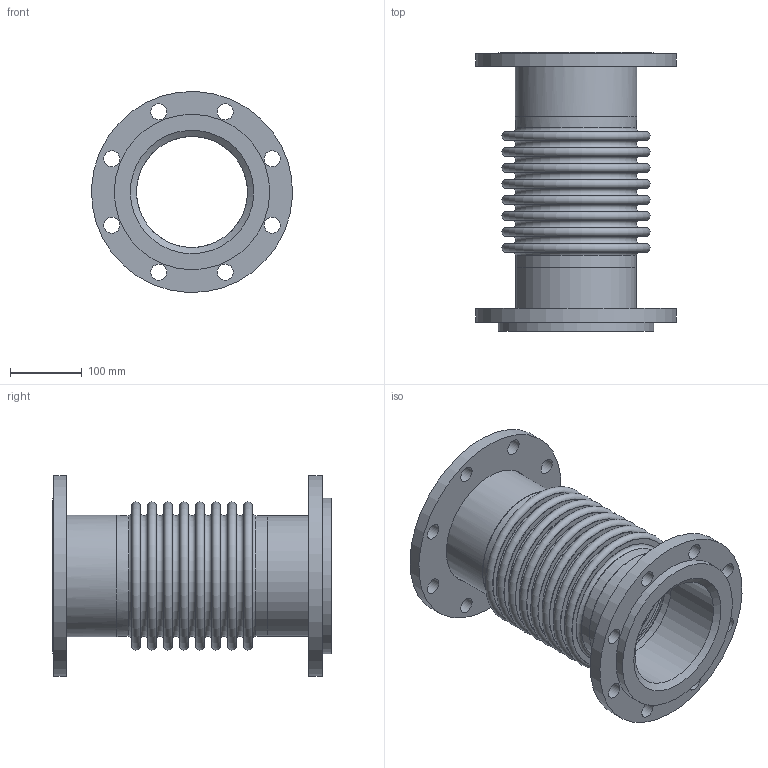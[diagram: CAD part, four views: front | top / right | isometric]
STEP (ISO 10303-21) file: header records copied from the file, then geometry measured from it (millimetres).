
FILE_DESCRIPTION(/* description */ (''),/* implementation_level */ '2;1');
FILE_NAME(/* name */ 'C:\001_Work\Designs\EFL50-ASA150LB\EFL50-6x15.25 (ASA150LB).stp',/* time_stamp */ '2016-05-10T08:51:16-04:00',/* author */ ('rramoutar'),/* organization */ ('Mason Industries Inc.'),/* preprocessor_version */ 'ST-DEVELOPER v15.6',/* originating_system */ 'Autodesk Inventor 2015',/* authorisation */ '');
FILE_SCHEMA (('CONFIG_CONTROL_DESIGN'));
Length unit declared in the file: inch
Products named in the file (1): EFL50-6x15.25
Bounding box: 279.13 x 387.35 x 279.13 mm (x, y, z)
Volume: 2346515.5 mm3; surface area: 923304.1 mm2
Topology: 1 solids, 1 shells, 113 faces, 223 edges, 155 vertices
Faces by surface type: plane 45, torus 34, cylinder 31, cone 3
Full cylindrical faces by diameter (mm): 22.225 x16, 154.178 x2, 166.243 x2, 168.275 x2, 168.402 x2, 171.45 x3, 215.9 x2, 279.4 x2
Entity records: 2645 total; most frequent: DIRECTION 486, CARTESIAN_POINT 372, EDGE_LOOP 258, ORIENTED_EDGE 258, AXIS2_PLACEMENT_3D 243, FACE_BOUND 145, CIRCLE 129, VERTEX_POINT 129
